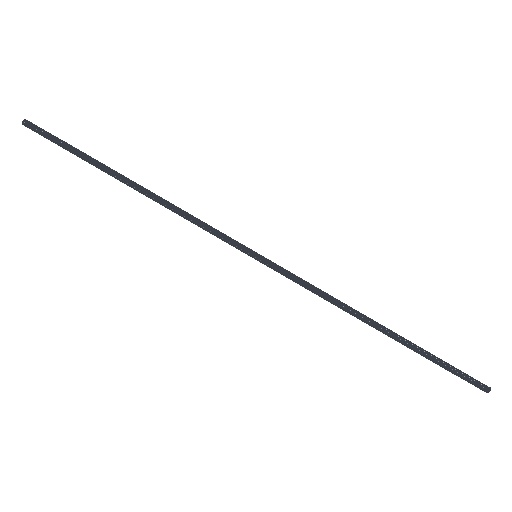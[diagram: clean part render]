
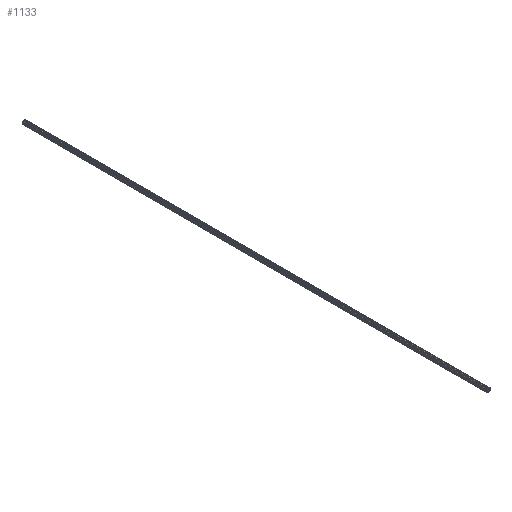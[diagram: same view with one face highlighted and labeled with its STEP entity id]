
A CAD part, isometric view. The second image highlights one B-rep face of the part: STEP entity #1133.
In plain terms, the highlighted cylindrical face has radius 20 mm (diameter 40 mm), a partial arc.
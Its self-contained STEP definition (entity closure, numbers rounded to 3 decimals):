
#39 = EDGE_CURVE ( 'NONE', #1811, #1784, #951, .T. ) ;
#40 = VERTEX_POINT ( 'NONE', #1337 ) ;
#47 = CIRCLE ( 'NONE', #1164, 20. ) ;
#68 = AXIS2_PLACEMENT_3D ( 'NONE', #1472, #1645, #1508 ) ;
#270 = VECTOR ( 'NONE', #520, 1000. ) ;
#301 = DIRECTION ( 'NONE',  ( 0., 1., 0. ) ) ;
#452 = CYLINDRICAL_SURFACE ( 'NONE', #698, 20. ) ;
#520 = DIRECTION ( 'NONE',  ( 0., 1., 0. ) ) ;
#571 = CARTESIAN_POINT ( 'NONE',  ( 7.722, 3000., 9.932 ) ) ;
#600 = EDGE_LOOP ( 'NONE', ( #1147, #1343, #1151, #683 ) ) ;
#659 = LINE ( 'NONE', #792, #270 ) ;
#683 = ORIENTED_EDGE ( 'NONE', *, *, #1582, .T. ) ;
#698 = AXIS2_PLACEMENT_3D ( 'NONE', #1706, #301, #1556 ) ;
#792 = CARTESIAN_POINT ( 'NONE',  ( 7.722, 100., 9.932 ) ) ;
#874 = CARTESIAN_POINT ( 'NONE',  ( -9.932, 100., -7.722 ) ) ;
#884 = DIRECTION ( 'NONE',  ( 0., -1., 0. ) ) ;
#949 = EDGE_CURVE ( 'NONE', #1784, #1444, #1190, .T. ) ;
#951 = CIRCLE ( 'NONE', #68, 20. ) ;
#974 = CARTESIAN_POINT ( 'NONE',  ( 9.944, 0., -9.944 ) ) ;
#990 = VECTOR ( 'NONE', #884, 1000. ) ;
#1133 = ADVANCED_FACE ( 'NONE', ( #1685 ), #452, .T. ) ;
#1147 = ORIENTED_EDGE ( 'NONE', *, *, #1641, .T. ) ;
#1151 = ORIENTED_EDGE ( 'NONE', *, *, #949, .T. ) ;
#1164 = AXIS2_PLACEMENT_3D ( 'NONE', #974, #1586, #1595 ) ;
#1190 = LINE ( 'NONE', #874, #990 ) ;
#1337 = CARTESIAN_POINT ( 'NONE',  ( 7.722, 0., 9.932 ) ) ;
#1343 = ORIENTED_EDGE ( 'NONE', *, *, #39, .T. ) ;
#1389 = CARTESIAN_POINT ( 'NONE',  ( -9.932, 0., -7.722 ) ) ;
#1444 = VERTEX_POINT ( 'NONE', #1389 ) ;
#1472 = CARTESIAN_POINT ( 'NONE',  ( 9.944, 3000., -9.944 ) ) ;
#1508 = DIRECTION ( 'NONE',  ( 0., 0., -1. ) ) ;
#1556 = DIRECTION ( 'NONE',  ( 0., 0., 1. ) ) ;
#1582 = EDGE_CURVE ( 'NONE', #1444, #40, #47, .T. ) ;
#1586 = DIRECTION ( 'NONE',  ( 0., 1., 0. ) ) ;
#1595 = DIRECTION ( 'NONE',  ( 0., 0., 1. ) ) ;
#1641 = EDGE_CURVE ( 'NONE', #40, #1811, #659, .T. ) ;
#1645 = DIRECTION ( 'NONE',  ( 0., -1., 0. ) ) ;
#1685 = FACE_OUTER_BOUND ( 'NONE', #600, .T. ) ;
#1706 = CARTESIAN_POINT ( 'NONE',  ( 9.944, 100., -9.944 ) ) ;
#1784 = VERTEX_POINT ( 'NONE', #1805 ) ;
#1805 = CARTESIAN_POINT ( 'NONE',  ( -9.932, 3000., -7.722 ) ) ;
#1811 = VERTEX_POINT ( 'NONE', #571 ) ;
